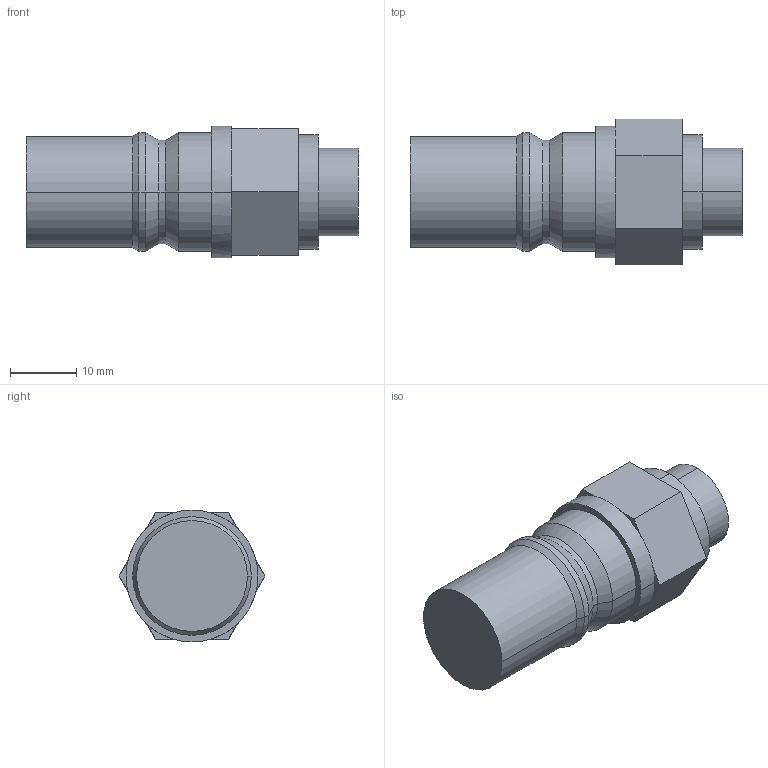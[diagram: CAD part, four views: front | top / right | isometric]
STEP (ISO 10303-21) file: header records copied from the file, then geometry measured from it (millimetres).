
FILE_DESCRIPTION (( 'STEP AP214' ), '1' );
FILE_NAME ('BR601.09 RRB 13.STEP', '2020-12-02T14:09:57', ( '' ), ( '' ), 'SwSTEP 2.0', 'SolidWorks 2018', '' );
FILE_SCHEMA (( 'AUTOMOTIVE_DESIGN' ));
Length unit declared in the file: millimetre
Products named in the file (1): BR601.09 RRB 13
Bounding box: 50 x 21.94 x 19.85 mm (x, y, z)
Volume: 11882.1 mm3; surface area: 3399.8 mm2
Topology: 1 solids, 1 shells, 43 faces, 90 edges, 52 vertices
Faces by surface type: plane 23, cylinder 14, cone 6
Entity records: 1166 total; most frequent: DIRECTION 218, CARTESIAN_POINT 186, ORIENTED_EDGE 180, EDGE_CURVE 90, AXIS2_PLACEMENT_3D 84, VERTEX_POINT 52, LINE 50, VECTOR 50
